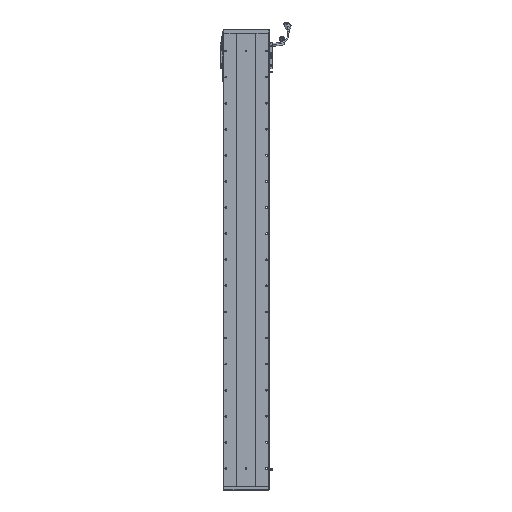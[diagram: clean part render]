
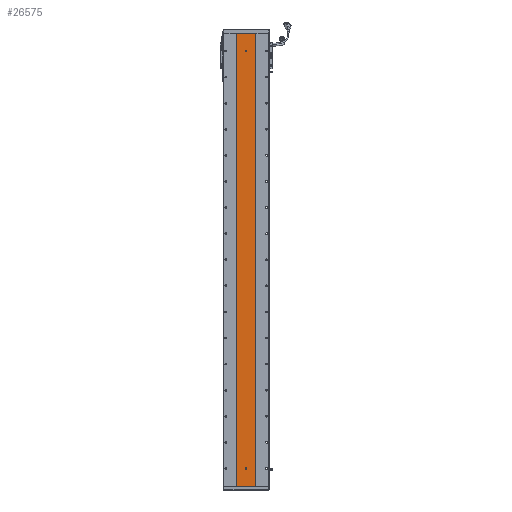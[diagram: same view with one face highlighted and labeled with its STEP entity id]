
A CAD part, front view. The second image highlights one B-rep face of the part: STEP entity #26575.
In plain terms, the highlighted planar face has unit normal (0, -1, 0).
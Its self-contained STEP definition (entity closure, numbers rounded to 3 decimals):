
#292 = CARTESIAN_POINT ( 'NONE',  ( 3244.748, 1415.701, 1737. ) ) ;
#1560 = ORIENTED_EDGE ( 'NONE', *, *, #68214, .F. ) ;
#5303 = CIRCLE ( 'NONE', #6412, 3. ) ;
#5370 = CARTESIAN_POINT ( 'NONE',  ( 3280.529, 1415.701, 1665.5 ) ) ;
#5517 = EDGE_CURVE ( 'NONE', #88920, #28028, #81627, .T. ) ;
#5744 = VERTEX_POINT ( 'NONE', #65226 ) ;
#5901 = CARTESIAN_POINT ( 'NONE',  ( 3244.748, 1415.701, 1737. ) ) ;
#6412 = AXIS2_PLACEMENT_3D ( 'NONE', #69862, #61143, #29705 ) ;
#7725 = LINE ( 'NONE', #33373, #98809 ) ;
#9039 = VECTOR ( 'NONE', #55298, 1000. ) ;
#9476 = CARTESIAN_POINT ( 'NONE',  ( 3277.529, 1415.701, 70. ) ) ;
#9704 = DIRECTION ( 'NONE',  ( 0., 0., -1. ) ) ;
#14449 = EDGE_CURVE ( 'NONE', #52718, #25066, #82095, .T. ) ;
#15346 = EDGE_CURVE ( 'NONE', #67043, #87705, #79419, .T. ) ;
#17432 = CARTESIAN_POINT ( 'NONE',  ( 3283.529, 1415.701, 67. ) ) ;
#20210 = ORIENTED_EDGE ( 'NONE', *, *, #29809, .T. ) ;
#20344 = AXIS2_PLACEMENT_3D ( 'NONE', #84956, #93331, #37080 ) ;
#21402 = EDGE_CURVE ( 'NONE', #24315, #99466, #43345, .T. ) ;
#22140 = VECTOR ( 'NONE', #98087, 1000. ) ;
#22420 = CARTESIAN_POINT ( 'NONE',  ( 3280.529, 1415.701, 1668.5 ) ) ;
#22585 = ORIENTED_EDGE ( 'NONE', *, *, #49278, .F. ) ;
#22883 = VECTOR ( 'NONE', #77818, 1000. ) ;
#23341 = DIRECTION ( 'NONE',  ( 1., 0., 0. ) ) ;
#23554 = AXIS2_PLACEMENT_3D ( 'NONE', #38747, #94641, #103322 ) ;
#24315 = VERTEX_POINT ( 'NONE', #9476 ) ;
#25066 = VERTEX_POINT ( 'NONE', #52886 ) ;
#26575 = ADVANCED_FACE ( 'NONE', ( #60694, #50710, #39476 ), #92643, .F. ) ;
#27137 = ORIENTED_EDGE ( 'NONE', *, *, #21402, .F. ) ;
#28028 = VERTEX_POINT ( 'NONE', #39771 ) ;
#28227 = ORIENTED_EDGE ( 'NONE', *, *, #85500, .F. ) ;
#29705 = DIRECTION ( 'NONE',  ( 0., 0., -1. ) ) ;
#29809 = EDGE_CURVE ( 'NONE', #25066, #28028, #7725, .T. ) ;
#30433 = DIRECTION ( 'NONE',  ( 0., 0., -1. ) ) ;
#33205 = EDGE_CURVE ( 'NONE', #99466, #5744, #5303, .T. ) ;
#33373 = CARTESIAN_POINT ( 'NONE',  ( 3244.748, 1415.701, 0. ) ) ;
#33447 = ORIENTED_EDGE ( 'NONE', *, *, #82423, .F. ) ;
#36479 = LINE ( 'NONE', #48259, #9039 ) ;
#37080 = DIRECTION ( 'NONE',  ( 0., 0., 1. ) ) ;
#38747 = CARTESIAN_POINT ( 'NONE',  ( 3280.529, 1415.701, 70. ) ) ;
#39476 = FACE_OUTER_BOUND ( 'NONE', #70602, .T. ) ;
#39771 = CARTESIAN_POINT ( 'NONE',  ( 3316.311, 1415.701, 0. ) ) ;
#42203 = CARTESIAN_POINT ( 'NONE',  ( 3280.529, 1415.701, 67. ) ) ;
#42406 = EDGE_LOOP ( 'NONE', ( #59022, #27137, #33447, #77357, #1560 ) ) ;
#43345 = LINE ( 'NONE', #50932, #22140 ) ;
#44558 = VECTOR ( 'NONE', #9704, 1000. ) ;
#48259 = CARTESIAN_POINT ( 'NONE',  ( 3283.529, 1415.701, 70. ) ) ;
#49079 = CARTESIAN_POINT ( 'NONE',  ( 3244.748, 1415.701, 1737. ) ) ;
#49114 = DIRECTION ( 'NONE',  ( 1., 0., 0. ) ) ;
#49278 = EDGE_CURVE ( 'NONE', #52718, #88920, #49622, .T. ) ;
#49622 = LINE ( 'NONE', #292, #68338 ) ;
#50710 = FACE_BOUND ( 'NONE', #99351, .T. ) ;
#50932 = CARTESIAN_POINT ( 'NONE',  ( 3277.529, 1415.701, 70. ) ) ;
#52236 = DIRECTION ( 'NONE',  ( 0., -1., 0. ) ) ;
#52718 = VERTEX_POINT ( 'NONE', #5901 ) ;
#52886 = CARTESIAN_POINT ( 'NONE',  ( 3244.748, 1415.701, 0. ) ) ;
#53695 = CARTESIAN_POINT ( 'NONE',  ( 3316.311, 1415.701, 1737. ) ) ;
#55081 = AXIS2_PLACEMENT_3D ( 'NONE', #22420, #62199, #30433 ) ;
#55298 = DIRECTION ( 'NONE',  ( 0., 0., 1. ) ) ;
#55528 = CARTESIAN_POINT ( 'NONE',  ( 3283.529, 1415.701, 70. ) ) ;
#57949 = DIRECTION ( 'NONE',  ( 0., -1., 0. ) ) ;
#58999 = CIRCLE ( 'NONE', #23554, 3. ) ;
#59022 = ORIENTED_EDGE ( 'NONE', *, *, #33205, .F. ) ;
#60694 = FACE_BOUND ( 'NONE', #42406, .T. ) ;
#60786 = CARTESIAN_POINT ( 'NONE',  ( 3316.311, 1415.701, 1737. ) ) ;
#61143 = DIRECTION ( 'NONE',  ( 0., -1., 0. ) ) ;
#62199 = DIRECTION ( 'NONE',  ( 0., -1., 0. ) ) ;
#64081 = ORIENTED_EDGE ( 'NONE', *, *, #14449, .T. ) ;
#65226 = CARTESIAN_POINT ( 'NONE',  ( 3280.529, 1415.701, 64. ) ) ;
#66897 = ORIENTED_EDGE ( 'NONE', *, *, #15346, .F. ) ;
#67043 = VERTEX_POINT ( 'NONE', #95571 ) ;
#68214 = EDGE_CURVE ( 'NONE', #5744, #96183, #99516, .T. ) ;
#68338 = VECTOR ( 'NONE', #23341, 1000. ) ;
#68602 = DIRECTION ( 'NONE',  ( 0., 0., -1. ) ) ;
#69862 = CARTESIAN_POINT ( 'NONE',  ( 3280.529, 1415.701, 67. ) ) ;
#70602 = EDGE_LOOP ( 'NONE', ( #20210, #71248, #22585, #64081 ) ) ;
#71248 = ORIENTED_EDGE ( 'NONE', *, *, #5517, .F. ) ;
#71324 = EDGE_CURVE ( 'NONE', #96183, #92422, #36479, .T. ) ;
#71455 = AXIS2_PLACEMENT_3D ( 'NONE', #42203, #57949, #89053 ) ;
#77357 = ORIENTED_EDGE ( 'NONE', *, *, #71324, .F. ) ;
#77818 = DIRECTION ( 'NONE',  ( 0., 0., -1. ) ) ;
#79419 = CIRCLE ( 'NONE', #55081, 3. ) ;
#81627 = LINE ( 'NONE', #53695, #22883 ) ;
#82095 = LINE ( 'NONE', #49079, #44558 ) ;
#82423 = EDGE_CURVE ( 'NONE', #92422, #24315, #58999, .T. ) ;
#84956 = CARTESIAN_POINT ( 'NONE',  ( 3244.748, 1415.701, 1737. ) ) ;
#85500 = EDGE_CURVE ( 'NONE', #87705, #67043, #99806, .T. ) ;
#87705 = VERTEX_POINT ( 'NONE', #5370 ) ;
#88920 = VERTEX_POINT ( 'NONE', #60786 ) ;
#89053 = DIRECTION ( 'NONE',  ( 0., 0., -1. ) ) ;
#89287 = AXIS2_PLACEMENT_3D ( 'NONE', #92725, #52236, #68602 ) ;
#92422 = VERTEX_POINT ( 'NONE', #55528 ) ;
#92643 = PLANE ( 'NONE',  #20344 ) ;
#92725 = CARTESIAN_POINT ( 'NONE',  ( 3280.529, 1415.701, 1668.5 ) ) ;
#93331 = DIRECTION ( 'NONE',  ( 0., 1., 0. ) ) ;
#94641 = DIRECTION ( 'NONE',  ( 0., -1., 0. ) ) ;
#95571 = CARTESIAN_POINT ( 'NONE',  ( 3280.529, 1415.701, 1671.5 ) ) ;
#96183 = VERTEX_POINT ( 'NONE', #17432 ) ;
#98087 = DIRECTION ( 'NONE',  ( 0., 0., -1. ) ) ;
#98809 = VECTOR ( 'NONE', #49114, 1000. ) ;
#99351 = EDGE_LOOP ( 'NONE', ( #28227, #66897 ) ) ;
#99466 = VERTEX_POINT ( 'NONE', #100621 ) ;
#99516 = CIRCLE ( 'NONE', #71455, 3. ) ;
#99806 = CIRCLE ( 'NONE', #89287, 3. ) ;
#100621 = CARTESIAN_POINT ( 'NONE',  ( 3277.529, 1415.701, 67. ) ) ;
#103322 = DIRECTION ( 'NONE',  ( 0., 0., -1. ) ) ;
